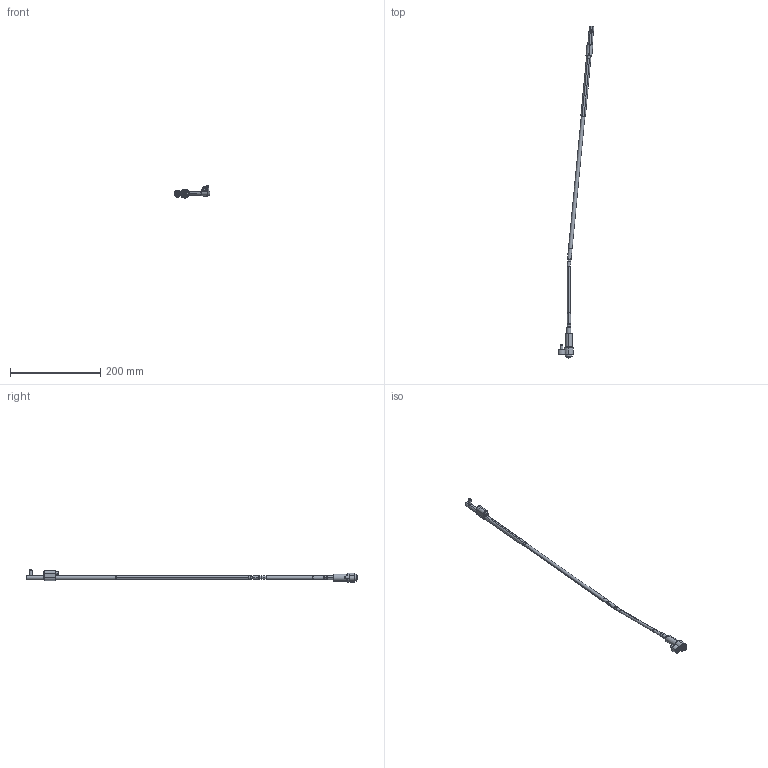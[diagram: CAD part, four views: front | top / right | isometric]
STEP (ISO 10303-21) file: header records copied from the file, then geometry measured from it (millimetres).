
FILE_DESCRIPTION (( 'STEP AP214' ), '1' );
FILE_NAME ('WL080100L-INJ 5,5°.STEP', '2021-03-19T15:26:58', ( '' ), ( '' ), 'SwSTEP 2.0', 'SolidWorks 2019', '' );
FILE_SCHEMA (( 'AUTOMOTIVE_DESIGN' ));
Length unit declared in the file: millimetre
Products named in the file (17): WL080100-D; WL080100-E; 1DIN912616_DIN 912 M6 x 16 --- 16C; 9DR2206-TOR; WL080100-B_WL0800FF; WL080100L-INJ 5,5°; WL080100-C; Web-WL08-A3; Web-WL08XX-A7_OFF-WL080100-5,5; WL080100-B1_WL0800FF-1; 1DIN912545_DIN 912 M5 x 50 --- 50C; Web-WL08-F00.SLDPRT; Web-WL08-A2; Web-WP08-1; 3IMAN4X2-150_con sello; Web-WL08-F01; Web-WL08-A1
Assembly tree (16 placements, depth 3):
  WL080100L-INJ 5,5°
    Web-WP08-1
    Web-WL08XX-A7_OFF-WL080100-5,5
    Web-WL08-A3
    Web-WL08-A2
    Web-WL08-A1
    WL080100-D
    WL080100-C
    WL080100-B_WL0800FF
      WL080100-B1_WL0800FF-1
      3IMAN4X2-150_con sello
    WL080100-E
    9DR2206-TOR
    Web-WL08-F00.SLDPRT
      Web-WL08-F01
      1DIN912545_DIN 912 M5 x 50 --- 50C
      1DIN912616_DIN 912 M6 x 16 --- 16C
Bounding box: 79.53 x 735.02 x 26.9 mm (x, y, z)
Volume: 57313.5 mm3; surface area: 33636 mm2
Topology: 15 solids, 15 shells, 424 faces, 888 edges, 516 vertices
Faces by surface type: plane 132, cylinder 128, cone 116, torus 48
Entity records: 13492 total; most frequent: DIRECTION 2218, CARTESIAN_POINT 2045, ORIENTED_EDGE 1756, AXIS2_PLACEMENT_3D 921, EDGE_CURVE 878, VERTEX_POINT 516, CIRCLE 476, EDGE_LOOP 468
